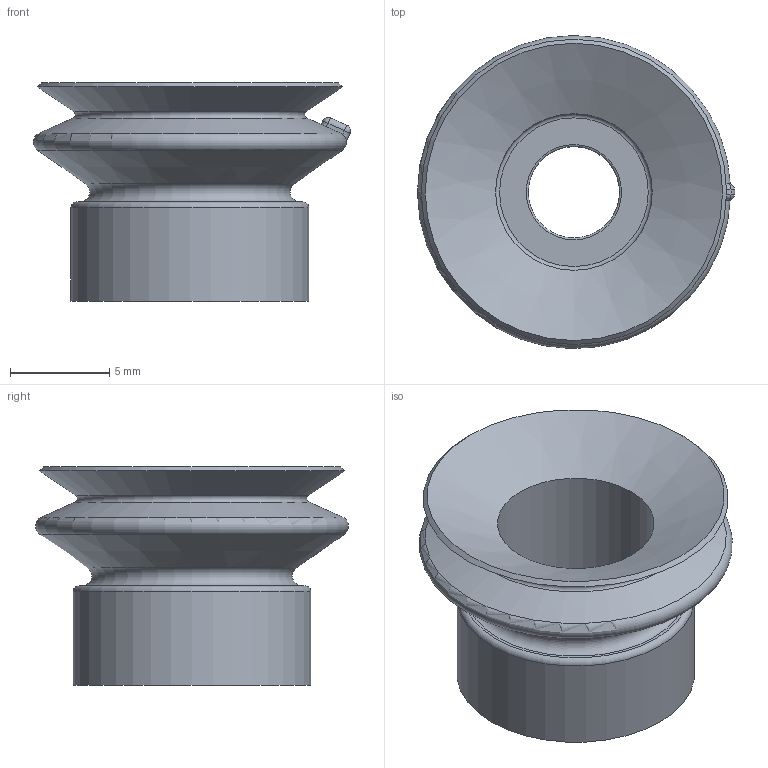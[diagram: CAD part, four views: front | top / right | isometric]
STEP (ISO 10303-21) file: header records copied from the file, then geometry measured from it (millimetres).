
FILE_DESCRIPTION(('STEP AP203'),'1');
FILE_NAME('_3D.stp','2025-02-13T07:55:55',(' '),(' '),'Spatial InterOp 3D',' ',' ');
FILE_SCHEMA(('CONFIG_CONTROL_DESIGN'));
Length unit declared in the file: millimetre
Products named in the file (1): 1
Bounding box: 15.99 x 15.78 x 11 mm (x, y, z)
Volume: 868.8 mm3; surface area: 1077.3 mm2
Topology: 1 solids, 1 shells, 35 faces, 79 edges, 45 vertices
Faces by surface type: torus 9, cone 8, bspline 6, plane 5, sphere 4, cylinder 3
Full cylindrical faces by diameter (mm): 4.6 x1, 7.9 x1, 12 x1
Entity records: 962 total; most frequent: CARTESIAN_POINT 269, DIRECTION 140, ORIENTED_EDGE 112, AXIS2_PLACEMENT_3D 68, EDGE_CURVE 56, EDGE_LOOP 53, FACE_OUTER_BOUND 45, VERTEX_POINT 39
